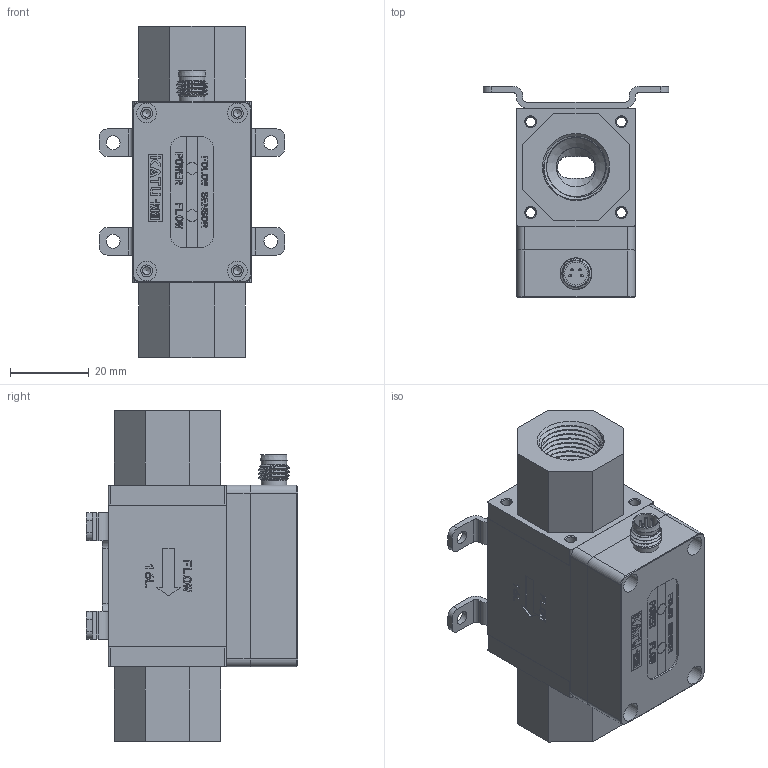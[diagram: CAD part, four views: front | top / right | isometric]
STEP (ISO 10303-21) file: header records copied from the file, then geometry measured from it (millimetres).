
FILE_DESCRIPTION( (''), '2;1');
FILE_NAME( 'QEKJ_16L_R3-8_M12_bracket.step', '2023-12-14T18:11:14+08:00', (''), (''), '', '', '');
FILE_SCHEMA (('AUTOMOTIVE_DESIGN { 1 0 10303 214 3 1 1 1 }'));
Length unit declared in the file: millimetre
Products named in the file (1): QEKJ 16L_R3-8_M12_bracket
Bounding box: 47 x 53.5 x 84 mm (x, y, z)
Volume: 50299.5 mm3; surface area: 40738.9 mm2
Topology: 8 solids, 9 shells, 1138 faces, 3074 edges, 2035 vertices
Faces by surface type: plane 735, cylinder 227, extrusion 105, cone 55, bspline 8, torus 4, sphere 4
Full cylindrical faces by diameter (mm): 0.6 x4, 1.5 x2, 1.6 x2, 1.7 x1, 1.8 x1, 2 x2, 2.05 x4, 2.2 x4, 2.3 x4, 2.5 x12, 3 x16, 3.5 x5, 4 x3, 4.5 x4, 5 x4, 5.5 x1, 5.8 x1, 6 x2, 6.5 x2, 7 x1, 7.5 x1, 8.5 x1, 10 x2, 15 x2, 19 x2, 20 x2
Entity records: 44388 total; most frequent: CARTESIAN_POINT 16617, ORIENTED_EDGE 5750, DIRECTION 5205, EDGE_CURVE 2875, VECTOR 2163, LINE 2058, VERTEX_POINT 1970, AXIS2_PLACEMENT_3D 1521
